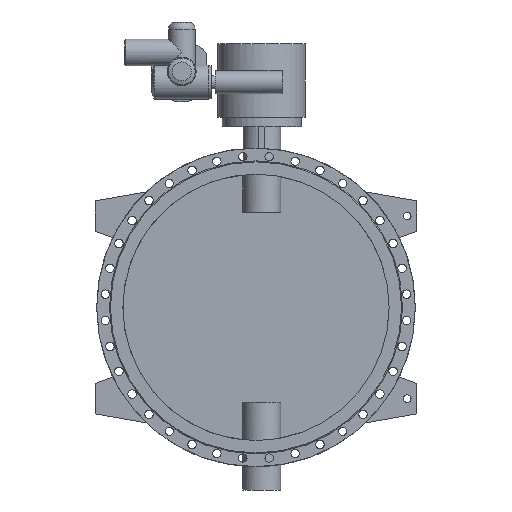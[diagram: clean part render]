
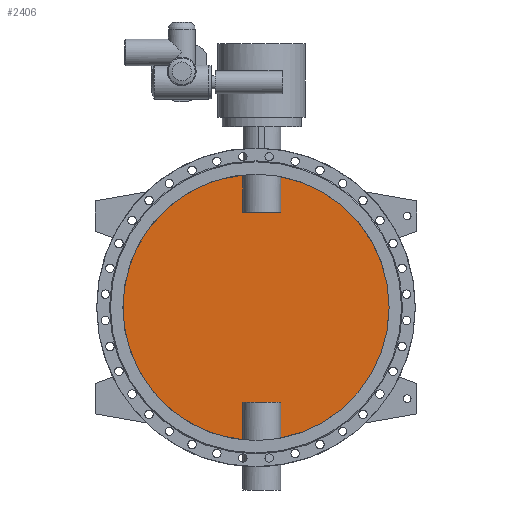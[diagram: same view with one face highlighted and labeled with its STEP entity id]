
A CAD part, front view. The second image highlights one B-rep face of the part: STEP entity #2406.
In plain terms, the highlighted planar face has unit normal (0, -1, 0).
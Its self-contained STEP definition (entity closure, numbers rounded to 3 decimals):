
#2406=ADVANCED_FACE('',(#4933),#4935,.F.);
#4933=FACE_BOUND('',#4934,.T.);
#4934=EDGE_LOOP('',(#6007,#6008,#6009,#6010,#6011,#6012,#6013,#6014));
#4935=PLANE('',#4936);
#4936=AXIS2_PLACEMENT_3D('',#4937,#4938,#4939);
#4937=CARTESIAN_POINT('',(0.,-5.,0.));
#4938=DIRECTION('',(0.,1.,0.));
#4939=DIRECTION('',(1.,0.,0.));
#6007=ORIENTED_EDGE('',*,*,#6545,.T.);
#6008=ORIENTED_EDGE('',*,*,#6550,.T.);
#6009=ORIENTED_EDGE('',*,*,#6551,.T.);
#6010=ORIENTED_EDGE('',*,*,#6552,.T.);
#6011=ORIENTED_EDGE('',*,*,#6547,.T.);
#6012=ORIENTED_EDGE('',*,*,#6553,.T.);
#6013=ORIENTED_EDGE('',*,*,#6554,.T.);
#6014=ORIENTED_EDGE('',*,*,#6555,.T.);
#6545=EDGE_CURVE('',#7503,#7504,#7505,.F.);
#6547=EDGE_CURVE('',#7508,#7506,#7509,.F.);
#6550=EDGE_CURVE('',#7504,#7513,#7514,.T.);
#6551=EDGE_CURVE('',#7513,#7515,#7516,.F.);
#6552=EDGE_CURVE('',#7515,#7508,#7517,.F.);
#6553=EDGE_CURVE('',#7506,#7518,#7519,.F.);
#6554=EDGE_CURVE('',#7518,#7520,#7521,.F.);
#6555=EDGE_CURVE('',#7520,#7503,#7522,.T.);
#7503=VERTEX_POINT('',#11495);
#7504=VERTEX_POINT('',#11496);
#7505=CIRCLE('',#11497,700.);
#7506=VERTEX_POINT('',#11501);
#7508=VERTEX_POINT('',#11562);
#7509=CIRCLE('',#11563,700.);
#7513=VERTEX_POINT('',#11697);
#7514=LINE('',#11698,#11699);
#7515=VERTEX_POINT('',#11701);
#7516=LINE('',#11702,#11703);
#7517=LINE('',#11705,#11706);
#7518=VERTEX_POINT('',#11708);
#7519=LINE('',#11709,#11710);
#7520=VERTEX_POINT('',#11712);
#7521=LINE('',#11713,#11714);
#7522=LINE('',#11716,#11717);
#11495=CARTESIAN_POINT('',(129.875,-5.,-687.846));
#11496=CARTESIAN_POINT('',(129.875,-5.,687.846));
#11497=AXIS2_PLACEMENT_3D('',#11498,#11499,#11500);
#11498=CARTESIAN_POINT('',(0.,-5.,0.));
#11499=DIRECTION('',(0.,1.,0.));
#11500=DIRECTION('',(0.186,0.,0.983));
#11501=CARTESIAN_POINT('',(-69.875,-5.,-696.504));
#11562=CARTESIAN_POINT('',(-69.875,-5.,696.504));
#11563=AXIS2_PLACEMENT_3D('',#11564,#11565,#11566);
#11564=CARTESIAN_POINT('',(0.,-5.,0.));
#11565=DIRECTION('',(0.,1.,0.));
#11566=DIRECTION('',(-0.1,0.,-0.995));
#11697=CARTESIAN_POINT('',(129.875,-5.,500.));
#11698=CARTESIAN_POINT('',(129.875,-5.,687.846));
#11699=VECTOR('',#11700,1.);
#11700=DIRECTION('',(0.,0.,-1.));
#11701=CARTESIAN_POINT('',(-69.875,-5.,500.));
#11702=CARTESIAN_POINT('',(-69.875,-5.,500.));
#11703=VECTOR('',#11704,1.);
#11704=DIRECTION('',(1.,0.,0.));
#11705=CARTESIAN_POINT('',(-69.875,-5.,696.504));
#11706=VECTOR('',#11707,1.);
#11707=DIRECTION('',(0.,0.,-1.));
#11708=CARTESIAN_POINT('',(-69.875,-5.,-500.));
#11709=CARTESIAN_POINT('',(-69.875,-5.,-500.));
#11710=VECTOR('',#11711,1.);
#11711=DIRECTION('',(0.,0.,-1.));
#11712=CARTESIAN_POINT('',(129.875,-5.,-500.));
#11713=CARTESIAN_POINT('',(129.875,-5.,-500.));
#11714=VECTOR('',#11715,1.);
#11715=DIRECTION('',(-1.,0.,0.));
#11716=CARTESIAN_POINT('',(129.875,-5.,-500.));
#11717=VECTOR('',#11718,1.);
#11718=DIRECTION('',(0.,0.,-1.));
